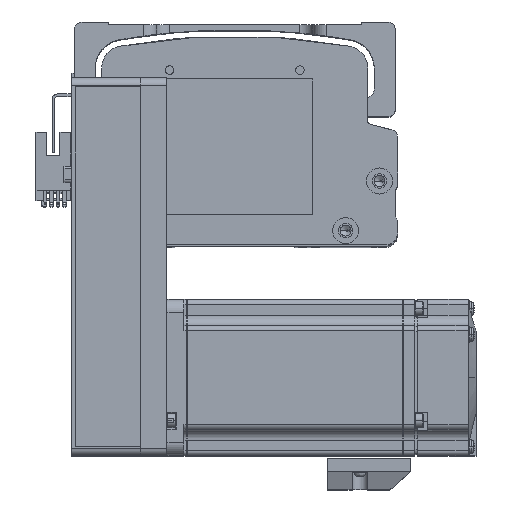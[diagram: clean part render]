
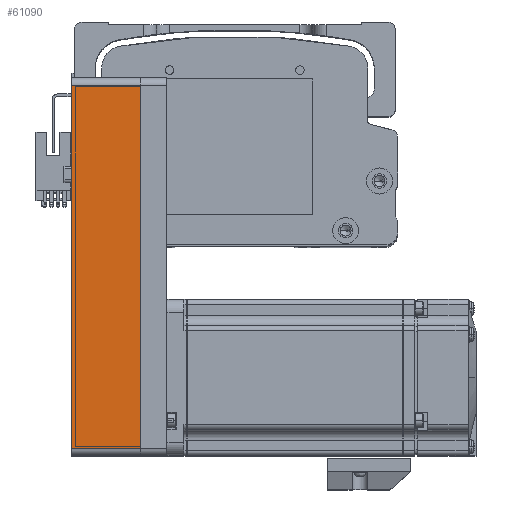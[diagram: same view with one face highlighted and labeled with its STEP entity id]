
A CAD part, top view. The second image highlights one B-rep face of the part: STEP entity #61090.
In plain terms, the highlighted planar face has unit normal (0, 0, 1) as drawn and (0, 1, 0) by its records, which use the part's own axes.
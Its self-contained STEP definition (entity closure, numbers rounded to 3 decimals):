
#3578 = CARTESIAN_POINT ( 'NONE',  ( -69.5, 30., 26.5 ) ) ;
#4000 = VERTEX_POINT ( 'NONE', #3578 ) ;
#4235 = LINE ( 'NONE', #49975, #67525 ) ;
#5141 = DIRECTION ( 'NONE',  ( -1., 0., 0. ) ) ;
#6210 = CARTESIAN_POINT ( 'NONE',  ( -69.5, 30., 0. ) ) ;
#7563 = CARTESIAN_POINT ( 'NONE',  ( 72.5, 30., 26.5 ) ) ;
#13463 = PLANE ( 'NONE',  #54606 ) ;
#13723 = DIRECTION ( 'NONE',  ( 1., 0., 0. ) ) ;
#14542 = VERTEX_POINT ( 'NONE', #6210 ) ;
#15900 = EDGE_CURVE ( 'NONE', #65446, #20860, #26815, .T. ) ;
#20348 = ORIENTED_EDGE ( 'NONE', *, *, #59102, .T. ) ;
#20860 = VERTEX_POINT ( 'NONE', #34521 ) ;
#21427 = DIRECTION ( 'NONE',  ( -1., 0., 0. ) ) ;
#26815 = LINE ( 'NONE', #43871, #57467 ) ;
#31740 = DIRECTION ( 'NONE',  ( 0., 0., 1. ) ) ;
#34428 = FACE_OUTER_BOUND ( 'NONE', #74432, .T. ) ;
#34521 = CARTESIAN_POINT ( 'NONE',  ( 69.5, 30., 0. ) ) ;
#35352 = LINE ( 'NONE', #59838, #49773 ) ;
#37721 = DIRECTION ( 'NONE',  ( 0., 0., -1. ) ) ;
#40892 = ORIENTED_EDGE ( 'NONE', *, *, #56268, .T. ) ;
#43871 = CARTESIAN_POINT ( 'NONE',  ( 69.5, 30., 26.5 ) ) ;
#49773 = VECTOR ( 'NONE', #5141, 1000. ) ;
#49975 = CARTESIAN_POINT ( 'NONE',  ( -69.5, 30., 26.5 ) ) ;
#50488 = DIRECTION ( 'NONE',  ( 0., -1., 0. ) ) ;
#54606 = AXIS2_PLACEMENT_3D ( 'NONE', #7563, #50488, #13723 ) ;
#56268 = EDGE_CURVE ( 'NONE', #20860, #14542, #35352, .T. ) ;
#57467 = VECTOR ( 'NONE', #37721, 1000. ) ;
#59102 = EDGE_CURVE ( 'NONE', #14542, #4000, #4235, .T. ) ;
#59838 = CARTESIAN_POINT ( 'NONE',  ( 72.5, 30., 0. ) ) ;
#60301 = VECTOR ( 'NONE', #21427, 1000. ) ;
#61090 = ADVANCED_FACE ( 'NONE', ( #34428 ), #13463, .F. ) ;
#64034 = CARTESIAN_POINT ( 'NONE',  ( 72.5, 30., 26.5 ) ) ;
#65446 = VERTEX_POINT ( 'NONE', #72878 ) ;
#66255 = ORIENTED_EDGE ( 'NONE', *, *, #15900, .T. ) ;
#67525 = VECTOR ( 'NONE', #31740, 1000. ) ;
#70290 = ORIENTED_EDGE ( 'NONE', *, *, #77405, .F. ) ;
#72878 = CARTESIAN_POINT ( 'NONE',  ( 69.5, 30., 26.5 ) ) ;
#74432 = EDGE_LOOP ( 'NONE', ( #40892, #20348, #70290, #66255 ) ) ;
#76740 = LINE ( 'NONE', #64034, #60301 ) ;
#77405 = EDGE_CURVE ( 'NONE', #65446, #4000, #76740, .T. ) ;
